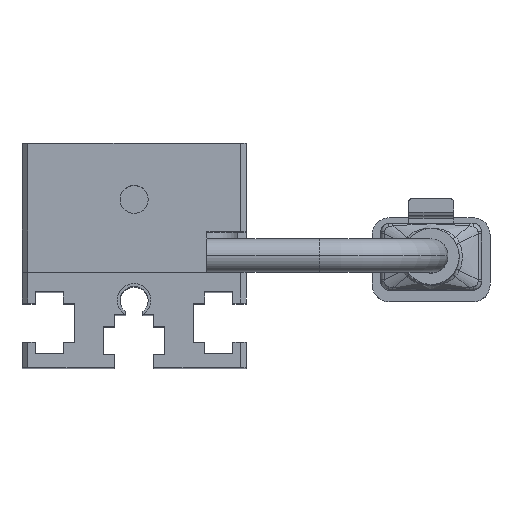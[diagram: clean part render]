
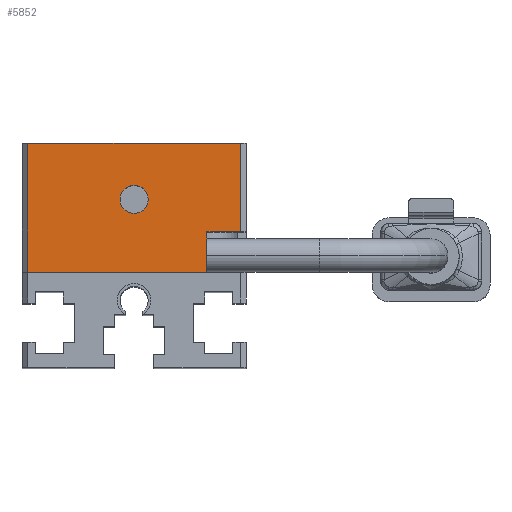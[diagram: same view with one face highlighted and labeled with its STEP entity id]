
A CAD part, top view. The second image highlights one B-rep face of the part: STEP entity #5852.
In plain terms, the highlighted planar face has unit normal (0, 0, 1) as drawn and (0, 0, -1) by its records, which use the part's own axes.
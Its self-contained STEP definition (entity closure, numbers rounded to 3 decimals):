
#115 = DIRECTION ( 'NONE',  ( -1., 0., 0. ) ) ;
#304 = CARTESIAN_POINT ( 'NONE',  ( -9.5, 11.5, 0. ) ) ;
#350 = FACE_OUTER_BOUND ( 'NONE', #11741, .T. ) ;
#829 = CARTESIAN_POINT ( 'NONE',  ( -9.5, 11.5, 0. ) ) ;
#887 = VERTEX_POINT ( 'NONE', #1804 ) ;
#1167 = CIRCLE ( 'NONE', #2646, 1.25 ) ;
#1489 = LINE ( 'NONE', #8522, #1636 ) ;
#1515 = CARTESIAN_POINT ( 'NONE',  ( 9.5, 11.5, 0. ) ) ;
#1580 = LINE ( 'NONE', #9544, #4896 ) ;
#1636 = VECTOR ( 'NONE', #9647, 1000. ) ;
#1708 = AXIS2_PLACEMENT_3D ( 'NONE', #6132, #7131, #4438 ) ;
#1804 = CARTESIAN_POINT ( 'NONE',  ( -6.5, 0., 0. ) ) ;
#1973 = DIRECTION ( 'NONE',  ( 0., 1., 0. ) ) ;
#2059 = EDGE_CURVE ( 'NONE', #5553, #11226, #8284, .T. ) ;
#2126 = CARTESIAN_POINT ( 'NONE',  ( -10., 11.5, 0. ) ) ;
#2256 = CARTESIAN_POINT ( 'NONE',  ( -6.5, 3., 0. ) ) ;
#2259 = ORIENTED_EDGE ( 'NONE', *, *, #5515, .F. ) ;
#2276 = CARTESIAN_POINT ( 'NONE',  ( 9.5, 0., 0. ) ) ;
#2363 = EDGE_CURVE ( 'NONE', #4067, #11226, #11801, .T. ) ;
#2480 = VECTOR ( 'NONE', #1973, 1000. ) ;
#2646 = AXIS2_PLACEMENT_3D ( 'NONE', #11107, #2884, #6974 ) ;
#2884 = DIRECTION ( 'NONE',  ( 0., 0., -1. ) ) ;
#3576 = VECTOR ( 'NONE', #115, 1000. ) ;
#3869 = VERTEX_POINT ( 'NONE', #7707 ) ;
#4067 = VERTEX_POINT ( 'NONE', #12301 ) ;
#4211 = DIRECTION ( 'NONE',  ( 0., -1., 0. ) ) ;
#4438 = DIRECTION ( 'NONE',  ( -1., 0., 0. ) ) ;
#4882 = VERTEX_POINT ( 'NONE', #10163 ) ;
#4896 = VECTOR ( 'NONE', #6602, 1000. ) ;
#4947 = EDGE_LOOP ( 'NONE', ( #10267, #10502 ) ) ;
#5159 = LINE ( 'NONE', #2276, #12816 ) ;
#5284 = LINE ( 'NONE', #2256, #8970 ) ;
#5515 = EDGE_CURVE ( 'NONE', #4067, #7883, #1580, .T. ) ;
#5553 = VERTEX_POINT ( 'NONE', #1515 ) ;
#5779 = ORIENTED_EDGE ( 'NONE', *, *, #6558, .F. ) ;
#5852 = ADVANCED_FACE ( 'NONE', ( #350, #7064 ), #11455, .T. ) ;
#6132 = CARTESIAN_POINT ( 'NONE',  ( -10., 11.5, 0. ) ) ;
#6287 = EDGE_CURVE ( 'NONE', #5553, #4882, #5159, .T. ) ;
#6375 = DIRECTION ( 'NONE',  ( 0., -1., 0. ) ) ;
#6558 = EDGE_CURVE ( 'NONE', #7883, #887, #5284, .T. ) ;
#6602 = DIRECTION ( 'NONE',  ( 1., 0., 0. ) ) ;
#6859 = CARTESIAN_POINT ( 'NONE',  ( -6.5, 3.6, 0. ) ) ;
#6974 = DIRECTION ( 'NONE',  ( -1., 0., 0. ) ) ;
#7064 = FACE_BOUND ( 'NONE', #4947, .T. ) ;
#7131 = DIRECTION ( 'NONE',  ( 0., 0., -1. ) ) ;
#7417 = CIRCLE ( 'NONE', #12310, 1.25 ) ;
#7707 = CARTESIAN_POINT ( 'NONE',  ( 1.25, 6.5, 0. ) ) ;
#7883 = VERTEX_POINT ( 'NONE', #6859 ) ;
#7952 = EDGE_CURVE ( 'NONE', #3869, #11472, #7417, .T. ) ;
#8222 = ORIENTED_EDGE ( 'NONE', *, *, #8245, .F. ) ;
#8245 = EDGE_CURVE ( 'NONE', #887, #4882, #1489, .T. ) ;
#8284 = LINE ( 'NONE', #2126, #3576 ) ;
#8522 = CARTESIAN_POINT ( 'NONE',  ( -10., 0., 0. ) ) ;
#8970 = VECTOR ( 'NONE', #4211, 1000. ) ;
#9122 = ORIENTED_EDGE ( 'NONE', *, *, #6287, .T. ) ;
#9354 = ORIENTED_EDGE ( 'NONE', *, *, #2059, .F. ) ;
#9544 = CARTESIAN_POINT ( 'NONE',  ( -9.5, 3.6, 0. ) ) ;
#9647 = DIRECTION ( 'NONE',  ( 1., 0., 0. ) ) ;
#10163 = CARTESIAN_POINT ( 'NONE',  ( 9.5, 0., 0. ) ) ;
#10231 = ORIENTED_EDGE ( 'NONE', *, *, #2363, .T. ) ;
#10267 = ORIENTED_EDGE ( 'NONE', *, *, #10758, .F. ) ;
#10502 = ORIENTED_EDGE ( 'NONE', *, *, #7952, .F. ) ;
#10758 = EDGE_CURVE ( 'NONE', #11472, #3869, #1167, .T. ) ;
#11107 = CARTESIAN_POINT ( 'NONE',  ( 0., 6.5, 0. ) ) ;
#11226 = VERTEX_POINT ( 'NONE', #304 ) ;
#11455 = PLANE ( 'NONE',  #1708 ) ;
#11472 = VERTEX_POINT ( 'NONE', #12818 ) ;
#11741 = EDGE_LOOP ( 'NONE', ( #5779, #2259, #10231, #9354, #9122, #8222 ) ) ;
#11801 = LINE ( 'NONE', #829, #2480 ) ;
#11992 = DIRECTION ( 'NONE',  ( -1., 0., 0. ) ) ;
#12301 = CARTESIAN_POINT ( 'NONE',  ( -9.5, 3.6, 0. ) ) ;
#12310 = AXIS2_PLACEMENT_3D ( 'NONE', #12874, #13132, #11992 ) ;
#12816 = VECTOR ( 'NONE', #6375, 1000. ) ;
#12818 = CARTESIAN_POINT ( 'NONE',  ( -1.25, 6.5, 0. ) ) ;
#12874 = CARTESIAN_POINT ( 'NONE',  ( 0., 6.5, 0. ) ) ;
#13132 = DIRECTION ( 'NONE',  ( 0., 0., -1. ) ) ;
